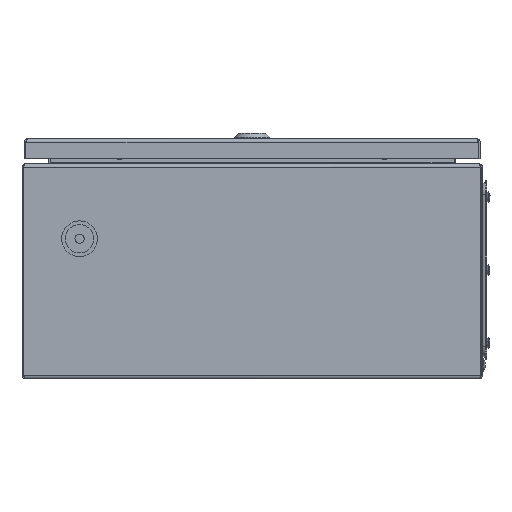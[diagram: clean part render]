
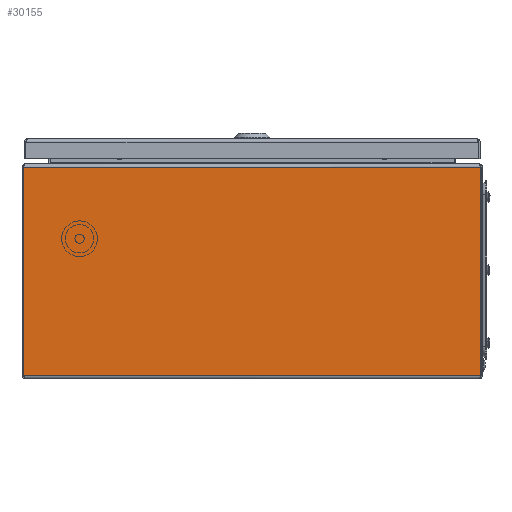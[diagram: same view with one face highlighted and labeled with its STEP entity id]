
A CAD part, left-side view. The second image highlights one B-rep face of the part: STEP entity #30155.
In plain terms, the highlighted planar face has unit normal (-1, 0, 0).
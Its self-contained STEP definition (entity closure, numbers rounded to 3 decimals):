
#1251 = CARTESIAN_POINT ( 'NONE',  ( -200., 198.729, 2.7 ) ) ;
#1936 = LINE ( 'NONE', #27353, #46594 ) ;
#2111 = CARTESIAN_POINT ( 'NONE',  ( -200., -198.623, 2.7 ) ) ;
#4492 = VECTOR ( 'NONE', #32758, 1000. ) ;
#5760 = VECTOR ( 'NONE', #6740, 1000. ) ;
#6111 = ORIENTED_EDGE ( 'NONE', *, *, #35327, .T. ) ;
#6233 = CARTESIAN_POINT ( 'NONE',  ( -200., 198.729, 2.7 ) ) ;
#6729 = EDGE_CURVE ( 'NONE', #22795, #27386, #22835, .T. ) ;
#6740 = DIRECTION ( 'NONE',  ( 0., 1., 0. ) ) ;
#7444 = ORIENTED_EDGE ( 'NONE', *, *, #16206, .T. ) ;
#7816 = VERTEX_POINT ( 'NONE', #44474 ) ;
#8835 = CARTESIAN_POINT ( 'NONE',  ( -200., 198.623, 184.05 ) ) ;
#9954 = CARTESIAN_POINT ( 'NONE',  ( -200., -2200., 2.7 ) ) ;
#10331 = ORIENTED_EDGE ( 'NONE', *, *, #41809, .F. ) ;
#10638 = DIRECTION ( 'NONE',  ( 0., 0., -1. ) ) ;
#10721 = ORIENTED_EDGE ( 'NONE', *, *, #36727, .T. ) ;
#10890 = CARTESIAN_POINT ( 'NONE',  ( -200., -2200., 184.05 ) ) ;
#11315 = VERTEX_POINT ( 'NONE', #6233 ) ;
#11623 = DIRECTION ( 'NONE',  ( 1., 0., 0. ) ) ;
#12038 = ORIENTED_EDGE ( 'NONE', *, *, #20923, .F. ) ;
#12990 = CARTESIAN_POINT ( 'NONE',  ( -200., -2200., 184.05 ) ) ;
#16206 = EDGE_CURVE ( 'NONE', #26844, #36068, #44424, .T. ) ;
#17114 = LINE ( 'NONE', #1251, #18710 ) ;
#17575 = LINE ( 'NONE', #43431, #4492 ) ;
#18655 = LINE ( 'NONE', #41025, #5760 ) ;
#18710 = VECTOR ( 'NONE', #28322, 1000. ) ;
#19269 = EDGE_LOOP ( 'NONE', ( #6111, #12038, #26366, #25743, #10331, #7444, #10721, #28683 ) ) ;
#20923 = EDGE_CURVE ( 'NONE', #7816, #27950, #1936, .T. ) ;
#22795 = VERTEX_POINT ( 'NONE', #23626 ) ;
#22835 = LINE ( 'NONE', #29829, #37520 ) ;
#23626 = CARTESIAN_POINT ( 'NONE',  ( -200., -198.729, 184.05 ) ) ;
#24525 = DIRECTION ( 'NONE',  ( 0., -1., 0. ) ) ;
#25743 = ORIENTED_EDGE ( 'NONE', *, *, #31842, .F. ) ;
#26111 = VECTOR ( 'NONE', #47488, 1000. ) ;
#26315 = DIRECTION ( 'NONE',  ( 0., 1., 0. ) ) ;
#26366 = ORIENTED_EDGE ( 'NONE', *, *, #47263, .F. ) ;
#26844 = VERTEX_POINT ( 'NONE', #2111 ) ;
#27203 = VECTOR ( 'NONE', #43939, 1000. ) ;
#27353 = CARTESIAN_POINT ( 'NONE',  ( -200., 198.729, 184.05 ) ) ;
#27386 = VERTEX_POINT ( 'NONE', #44270 ) ;
#27950 = VERTEX_POINT ( 'NONE', #8835 ) ;
#28322 = DIRECTION ( 'NONE',  ( 0., 0., 1. ) ) ;
#28683 = ORIENTED_EDGE ( 'NONE', *, *, #6729, .T. ) ;
#28804 = CARTESIAN_POINT ( 'NONE',  ( -200., -198.623, 2.7 ) ) ;
#28976 = VECTOR ( 'NONE', #44039, 1000. ) ;
#29154 = LINE ( 'NONE', #12990, #28976 ) ;
#29829 = CARTESIAN_POINT ( 'NONE',  ( -200., -198.729, 184.05 ) ) ;
#30155 = ADVANCED_FACE ( 'NONE', ( #41190 ), #34485, .F. ) ;
#31842 = EDGE_CURVE ( 'NONE', #47791, #11315, #18655, .T. ) ;
#32096 = LINE ( 'NONE', #9954, #26111 ) ;
#32758 = DIRECTION ( 'NONE',  ( 0., 0., 1. ) ) ;
#33211 = CARTESIAN_POINT ( 'NONE',  ( -200., 198.623, 2.7 ) ) ;
#34485 = PLANE ( 'NONE',  #37457 ) ;
#35327 = EDGE_CURVE ( 'NONE', #27386, #27950, #29154, .T. ) ;
#36068 = VERTEX_POINT ( 'NONE', #47779 ) ;
#36727 = EDGE_CURVE ( 'NONE', #36068, #22795, #17575, .T. ) ;
#37457 = AXIS2_PLACEMENT_3D ( 'NONE', #10890, #11623, #10638 ) ;
#37520 = VECTOR ( 'NONE', #26315, 1000. ) ;
#41025 = CARTESIAN_POINT ( 'NONE',  ( -200., 198.623, 2.7 ) ) ;
#41190 = FACE_OUTER_BOUND ( 'NONE', #19269, .T. ) ;
#41809 = EDGE_CURVE ( 'NONE', #26844, #47791, #32096, .T. ) ;
#43431 = CARTESIAN_POINT ( 'NONE',  ( -200., -198.729, 2.7 ) ) ;
#43939 = DIRECTION ( 'NONE',  ( 0., -1., 0. ) ) ;
#44039 = DIRECTION ( 'NONE',  ( 0., 1., 0. ) ) ;
#44270 = CARTESIAN_POINT ( 'NONE',  ( -200., -198.623, 184.05 ) ) ;
#44424 = LINE ( 'NONE', #28804, #27203 ) ;
#44474 = CARTESIAN_POINT ( 'NONE',  ( -200., 198.729, 184.05 ) ) ;
#46594 = VECTOR ( 'NONE', #24525, 1000. ) ;
#47263 = EDGE_CURVE ( 'NONE', #11315, #7816, #17114, .T. ) ;
#47488 = DIRECTION ( 'NONE',  ( 0., 1., 0. ) ) ;
#47779 = CARTESIAN_POINT ( 'NONE',  ( -200., -198.729, 2.7 ) ) ;
#47791 = VERTEX_POINT ( 'NONE', #33211 ) ;
